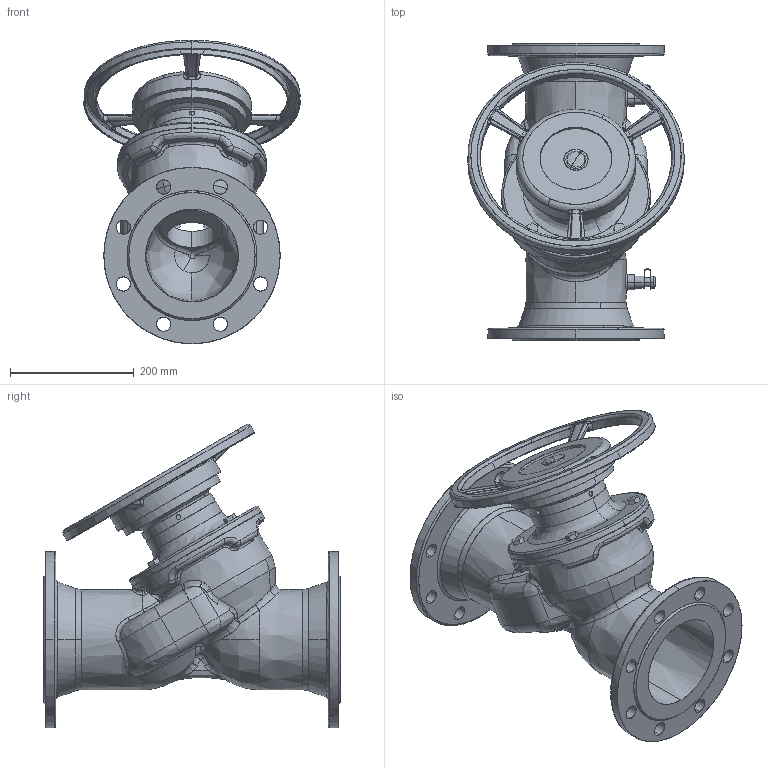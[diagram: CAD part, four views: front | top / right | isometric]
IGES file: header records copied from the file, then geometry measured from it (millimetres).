
Start section: SolidWorks IGES file using analytic representation for surfaces
Global section: file name: C:\Users\Administrator\Desktop\temp\RC4240-DN150.IGS; native system: SolidWorks 2015; preprocessor: SolidWorks 2015; author: Administrator; date: 170423.165745; units: millimetre
Bounding box: 349.98 x 480 x 490.62 mm (x, y, z)
Surface area: 1289494.9 mm2 (no closed solid volume)
Topology: 0 solids, 0 shells, 740 faces, 13138 edges, 13127 vertices
Faces by surface type: bspline 460, revolution 280
